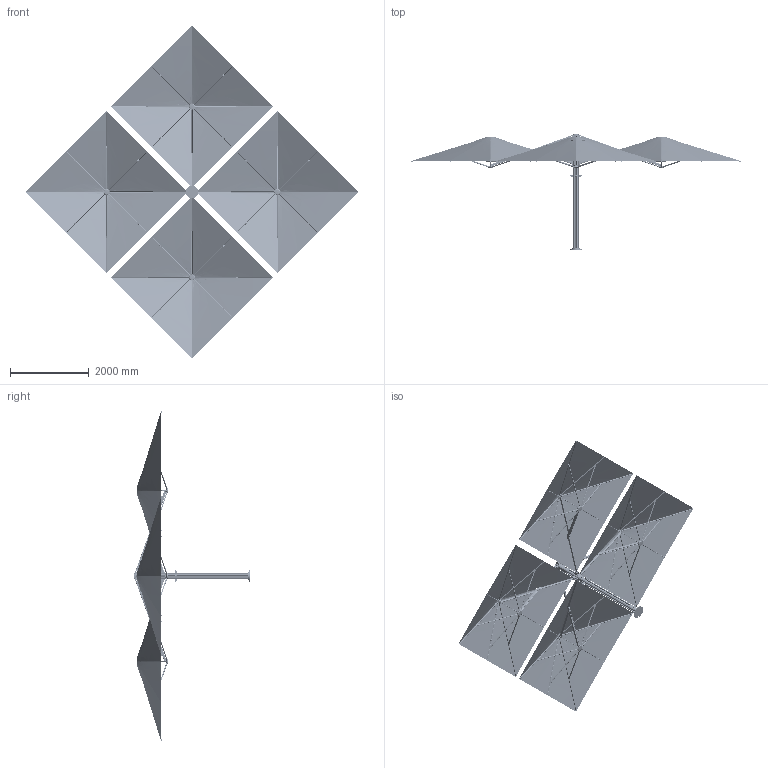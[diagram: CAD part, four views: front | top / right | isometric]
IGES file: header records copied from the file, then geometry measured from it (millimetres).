
Start section: SolidWorks IGES file using analytic representation for surfaces
Global section: file name: S:\RESEARCH and DEVELOPMENT\UnitySerenity Simple CAD Models\1. Export CAD\IGES Files\Unity 3M Square Qauttro.IGS; native system: SolidWorks 2017; preprocessor: SolidWorks 2017; author: Peter; date: 200619.110513; units: millimetre
Bounding box: 8412.11 x 2932.5 x 8412.11 mm (x, y, z)
Surface area: 90048403 mm2 (no closed solid volume)
Topology: 0 solids, 0 shells, 7200 faces, 97272 edges, 97188 vertices
Faces by surface type: bspline 3928, revolution 3272
